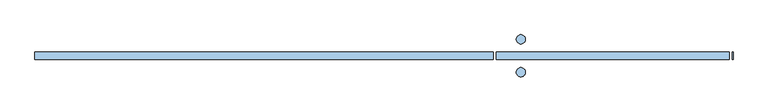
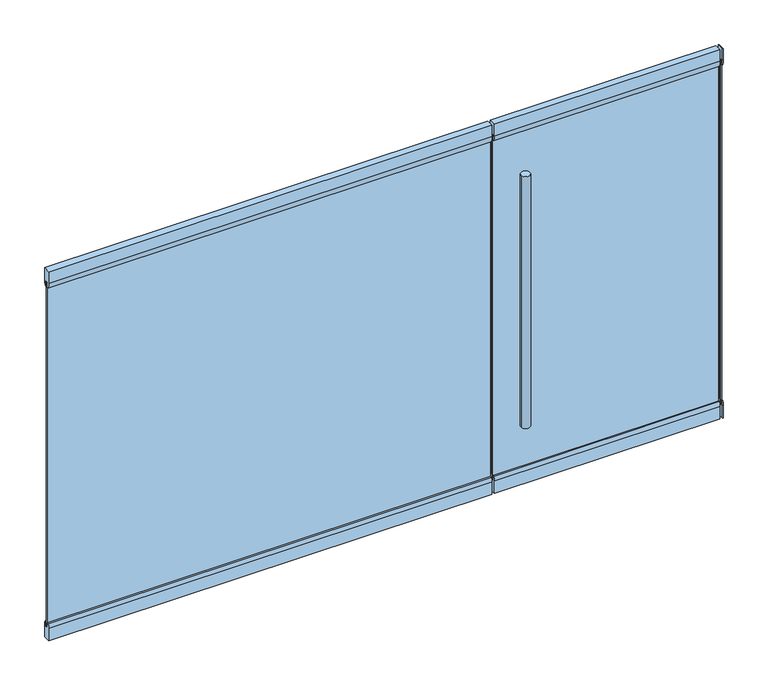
"""IFC4 building model written with IfcOpenShell, lengths in millimetres: window geometry, Herculite-1 Puerta : VL-1 - Herculite-1 Puerta 3.8 X 2.20."""

from ifc_helpers import new_model, si_unit, point, frame, frame_2d, origin, place, context, project, spatial, polyline, circle_curve, trimmed, segment, composite_curve, outline, extrude, source, transform, mapped, element, save


def window_5fa0e712(model_context):
    return source(origin(), model_context, "Body", "SweptSolid", [
        extrude(outline(composite_curve([segment(polyline([(7.5, 2100.0), (7.5, 2130.0), (-7.5, 2130.0), (-7.5, 2100.0), (-15.0, 2100.0)]), True, "CONTINUOUS"), segment(trimmed(circle_curve(frame_2d((80.0, 2131.22499)), 100.0), [point((-15.0, 2100.0))], [point((-20.0, 2131.22499))], False, "CARTESIAN"), True, "CONTINUOUS"), segment(polyline([(-20.0, 2131.22499), (-20.0, 2200.0), (20.0, 2200.0), (20.0, 2131.22499)]), True, "CONTINUOUS"), segment(trimmed(circle_curve(frame_2d((-80.0, 2131.22499)), 100.0), [point((20.0, 2131.22499))], [point((15.0, 2100.0))], False, "CARTESIAN"), True, "CONTINUOUS"), segment(polyline([(15.0, 2100.0), (7.5, 2100.0)]), True, "CONTINUOUS")], self_intersect=False)), frame((610.0, 0.0, 0.0), z_axis=(1.0, 0.0, 0.0), x_axis=(0.0, 1.0, 0.0)), (0.0, 0.0, 1.0), 1270.0),
        extrude(outline(composite_curve([segment(polyline([(7.5, 2100.0), (7.5, 2130.0), (-7.5, 2130.0), (-7.5, 2100.0), (-15.0, 2100.0)]), True, "CONTINUOUS"), segment(trimmed(circle_curve(frame_2d((80.0, 2131.22499)), 100.0), [point((-15.0, 2100.0))], [point((-20.0, 2131.22499))], False, "CARTESIAN"), True, "CONTINUOUS"), segment(polyline([(-20.0, 2131.22499), (-20.0, 2200.0), (20.0, 2200.0), (20.0, 2131.22499)]), True, "CONTINUOUS"), segment(trimmed(circle_curve(frame_2d((-80.0, 2131.22499)), 100.0), [point((20.0, 2131.22499))], [point((15.0, 2100.0))], False, "CARTESIAN"), True, "CONTINUOUS"), segment(polyline([(15.0, 2100.0), (7.5, 2100.0)]), True, "CONTINUOUS")], self_intersect=False)), frame((1895.0, 0.0, 0.0), z_axis=(1.0, 0.0, 0.0), x_axis=(0.0, 1.0, 0.0)), (0.0, 0.0, 1.0), 5.0),
        extrude(outline(composite_curve([segment(polyline([(7.5, 2100.0), (7.5, 2130.0), (-7.5, 2130.0), (-7.5, 2100.0), (-15.0, 2100.0)]), True, "CONTINUOUS"), segment(trimmed(circle_curve(frame_2d((80.0, 2131.22499)), 100.0), [point((-15.0, 2100.0))], [point((-20.0, 2131.22499))], False, "CARTESIAN"), True, "CONTINUOUS"), segment(polyline([(-20.0, 2131.22499), (-20.0, 2200.0), (20.0, 2200.0), (20.0, 2131.22499)]), True, "CONTINUOUS"), segment(trimmed(circle_curve(frame_2d((-80.0, 2131.22499)), 100.0), [point((20.0, 2131.22499))], [point((15.0, 2100.0))], False, "CARTESIAN"), True, "CONTINUOUS"), segment(polyline([(15.0, 2100.0), (7.5, 2100.0)]), True, "CONTINUOUS")], self_intersect=False)), frame((-1900.0, 0.0, 0.0), z_axis=(1.0, 0.0, 0.0), x_axis=(0.0, 1.0, 0.0)), (0.0, 0.0, 1.0), 2495.0),
        extrude(outline(composite_curve([segment(trimmed(circle_curve(frame_2d((745.1, 90.00005)), 25.0), [point((720.1, 90.00005))], [point((770.1, 90.00005))], False, "CARTESIAN"), True, "CONTINUOUS"), segment(trimmed(circle_curve(frame_2d((745.1, 90.00005)), 25.0), [point((770.1, 90.00005))], [point((720.1, 90.00005))], False, "CARTESIAN"), True, "CONTINUOUS")], self_intersect=False)), frame((0.0, 0.0, 400.0), z_axis=(0.0, 0.0, 1.0), x_axis=(1.0, 0.0, 0.0)), (0.0, 0.0, 1.0), 1500.0),
        extrude(outline(composite_curve([segment(trimmed(circle_curve(frame_2d((745.1, -90.00005)), 25.0), [point((720.1, -90.00005))], [point((770.1, -90.00005))], False, "CARTESIAN"), True, "CONTINUOUS"), segment(trimmed(circle_curve(frame_2d((745.1, -90.00005)), 25.0), [point((770.1, -90.00005))], [point((720.1, -90.00005))], False, "CARTESIAN"), True, "CONTINUOUS")], self_intersect=False)), frame((0.0, 0.0, 400.0), z_axis=(0.0, 0.0, 1.0), x_axis=(1.0, 0.0, 0.0)), (0.0, 0.0, 1.0), 1500.0),
        extrude(outline(composite_curve([segment(polyline([(7.5, 100.0), (15.0, 100.0)]), True, "CONTINUOUS"), segment(trimmed(circle_curve(frame_2d((-45.0, 75.0)), 65.0), [point((15.0, 100.0))], [point((20.0, 75.0))], False, "CARTESIAN"), True, "CONTINUOUS"), segment(polyline([(20.0, 75.0), (20.0, 0.0), (-20.0, 0.0), (-20.0, 75.0)]), True, "CONTINUOUS"), segment(trimmed(circle_curve(frame_2d((45.0, 75.0)), 65.0), [point((-20.0, 75.0))], [point((-15.0, 100.0))], False, "CARTESIAN"), True, "CONTINUOUS"), segment(polyline([(-15.0, 100.0), (-7.5, 100.0), (-7.5, 70.0), (7.5, 70.0), (7.5, 100.0)]), True, "CONTINUOUS")], self_intersect=False)), frame((610.0, 0.0, 0.0), z_axis=(1.0, 0.0, 0.0), x_axis=(0.0, 1.0, 0.0)), (0.0, 0.0, 1.0), 1270.0),
        extrude(outline(polyline([(610.0, 5.5), (1880.0, 5.5), (1880.0, -5.5), (610.0, -5.5), (610.0, 5.5)])), frame((0.0, 0.0, 72.0), z_axis=(0.0, 0.0, 1.0), x_axis=(1.0, 0.0, 0.0)), (0.0, 0.0, 1.0), 2056.0),
        extrude(outline(composite_curve([segment(polyline([(7.5, 100.0), (15.0, 100.0)]), True, "CONTINUOUS"), segment(trimmed(circle_curve(frame_2d((-45.0, 75.0)), 65.0), [point((15.0, 100.0))], [point((20.0, 75.0))], False, "CARTESIAN"), True, "CONTINUOUS"), segment(polyline([(20.0, 75.0), (20.0, 0.0), (-20.0, 0.0), (-20.0, 75.0)]), True, "CONTINUOUS"), segment(trimmed(circle_curve(frame_2d((45.0, 75.0)), 65.0), [point((-20.0, 75.0))], [point((-15.0, 100.0))], False, "CARTESIAN"), True, "CONTINUOUS"), segment(polyline([(-15.0, 100.0), (-7.5, 100.0), (-7.5, 70.0), (7.5, 70.0), (7.5, 100.0)]), True, "CONTINUOUS")], self_intersect=False)), frame((1895.0, 0.0, 0.0), z_axis=(1.0, 0.0, 0.0), x_axis=(0.0, 1.0, 0.0)), (0.0, 0.0, 1.0), 5.0),
        extrude(outline(composite_curve([segment(polyline([(7.5, 100.0), (15.0, 100.0)]), True, "CONTINUOUS"), segment(trimmed(circle_curve(frame_2d((-45.0, 75.0)), 65.0), [point((15.0, 100.0))], [point((20.0, 75.0))], False, "CARTESIAN"), True, "CONTINUOUS"), segment(polyline([(20.0, 75.0), (20.0, 0.0), (-20.0, 0.0), (-20.0, 75.0)]), True, "CONTINUOUS"), segment(trimmed(circle_curve(frame_2d((45.0, 75.0)), 65.0), [point((-20.0, 75.0))], [point((-15.0, 100.0))], False, "CARTESIAN"), True, "CONTINUOUS"), segment(polyline([(-15.0, 100.0), (-7.5, 100.0), (-7.5, 70.0), (7.5, 70.0), (7.5, 100.0)]), True, "CONTINUOUS")], self_intersect=False)), frame((-1900.0, 0.0, 0.0), z_axis=(1.0, 0.0, 0.0), x_axis=(0.0, 1.0, 0.0)), (0.0, 0.0, 1.0), 2495.0),
        extrude(outline(polyline([(1895.0, 5.5), (1900.0, 5.5), (1900.0, -5.5), (1895.0, -5.5), (1895.0, 5.5)])), frame((0.0, 0.0, 72.0), z_axis=(0.0, 0.0, 1.0), x_axis=(1.0, 0.0, 0.0)), (0.0, 0.0, 1.0), 2056.0),
        extrude(outline(polyline([(-1900.0, 5.5), (595.0, 5.5), (595.0, -5.5), (-1900.0, -5.5), (-1900.0, 5.5)])), frame((0.0, 0.0, 72.0), z_axis=(0.0, 0.0, 1.0), x_axis=(1.0, 0.0, 0.0)), (0.0, 0.0, 1.0), 2056.0),
    ])


if __name__ == "__main__":
    model = new_model("IFC4")
    model_context = context("Model", 3, world=origin())
    ifc_project = project(units=[si_unit("LENGTHUNIT", "METRE", prefix="MILLI")], contexts=[model_context])
    site = spatial("IfcSite", under=ifc_project)
    building = spatial("IfcBuilding", under=site)
    placement = place(None, origin())
    window_shape = window_5fa0e712(model_context)
    element("IfcWindow", 1, ObjectType="Herculite-1 Puerta : VL-1 - Herculite-1 Puerta 3.8 X 2.20", at=placement, inside=building, context=model_context, shape_type="MappedRepresentation", body=[
        mapped(window_shape, transform((0.0, 0.0, 0.0), x_axis=(1.0, 0.0, 0.0), y_axis=(0.0, 1.0, 0.0), z_axis=(0.0, 0.0, 1.0))),
    ])
    save(model, "model.ifc")
